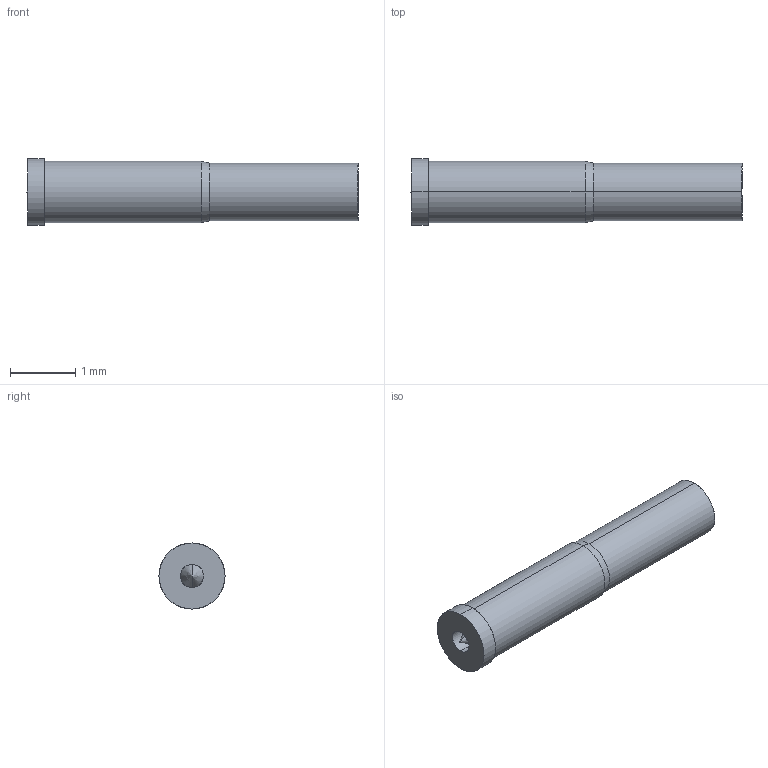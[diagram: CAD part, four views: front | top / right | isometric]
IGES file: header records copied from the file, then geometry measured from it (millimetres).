
Start section: SolidWorks IGES file using analytic representation for surfaces
Global section: file name: O:\PYLON\IGES FILES\A-S\A-S-C FULL.IGS; native system: SolidWorks 2015; preprocessor: SolidWorks 2015; author: kgolden; date: 171023.150539; units: inch
Bounding box: 5.11 x 1.02 x 1.02 mm (x, y, z)
Surface area: 18.9 mm2 (no closed solid volume)
Topology: 0 solids, 0 shells, 18 faces, 168 edges, 166 vertices
Faces by surface type: revolution 14, bspline 4
